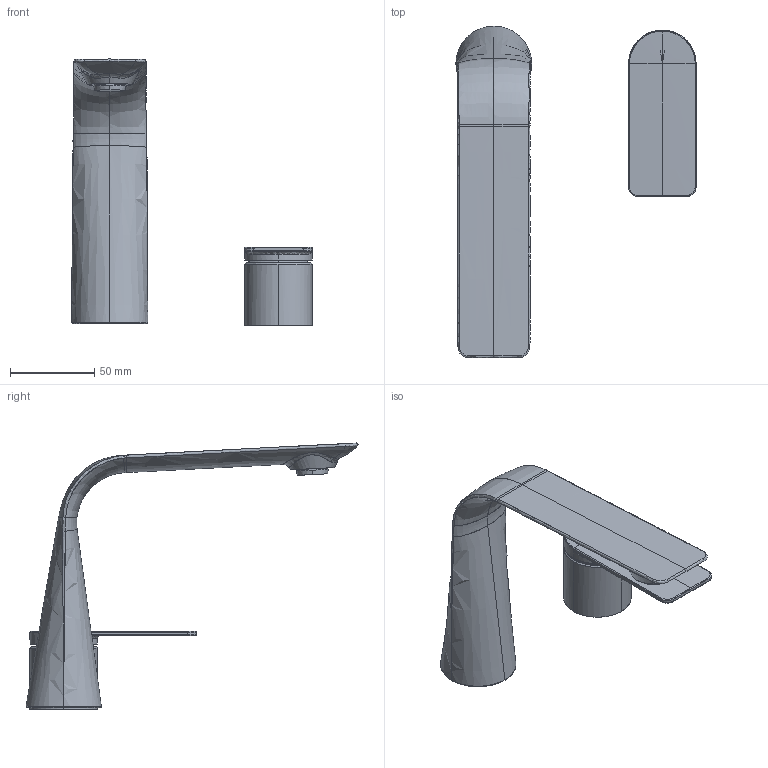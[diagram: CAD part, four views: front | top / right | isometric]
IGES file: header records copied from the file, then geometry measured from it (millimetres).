
Global section: file name: d:\users\matthias.isele\Desktop\planungsdaten_erstellen\D1\D11120002010\3D\a.igs; native system: Rhinoceros ( Sep 13 2016 ); preprocessor: Trout Lake IGES 012 Sep 13 2016; date: 190829.130307; units: millimetre
Bounding box: 142.52 x 197.02 x 157.86 mm (x, y, z)
Surface area: 56135.4 mm2 (no closed solid volume)
Topology: 0 solids, 0 shells, 598 faces, 4329 edges, 4293 vertices
Faces by surface type: bspline 598
